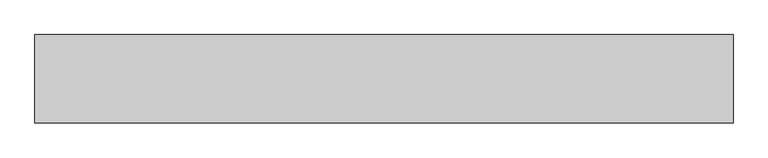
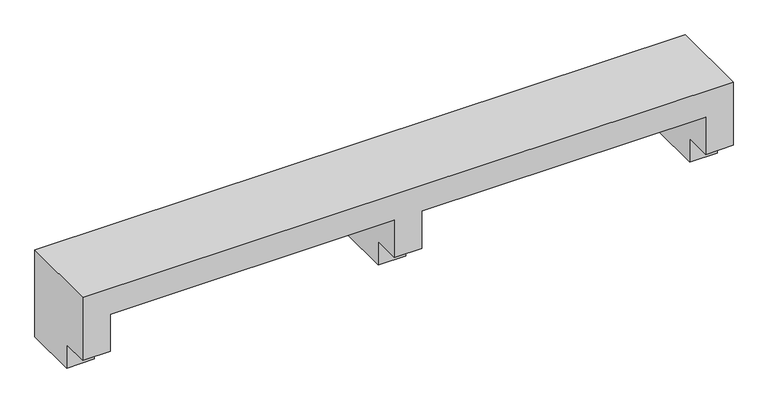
"""IFC4 building model written with IfcOpenShell, lengths in millimetres: proxy geometry, ARQ_BANCA_PADRES : ARQ_BANCA_PADRES."""

from ifc_helpers import new_model, si_unit, origin, place, context, project, spatial, faceted_brep, source, transform, mapped, element, save


def generic_models_e7e53a55(model_context):
    return source(origin(), model_context, "Body", "Brep", [
        faceted_brep([(1775.0, -450.0, 400.0), (-1775.0, -450.0, 400.0), (-1775.0, -450.0, 35.0), (-1625.0, -450.0, 35.0), (-1625.0, -450.0, 250.0), (-75.0, -450.0, 250.0), (-75.0, -450.0, 35.0), (75.0, -450.0, 35.0), (75.0, -450.0, 250.0), (1625.0, -450.0, 250.0), (1625.0, -450.0, 35.0), (1775.0, -450.0, 35.0), (1775.0, 0.0, 400.0), (1775.0, 0.0, -100.0), (1625.0, 0.0, -100.0), (1625.0, 0.0, 250.0), (75.0, 0.0, 250.0), (75.0, 0.0, -100.0), (-75.0, 0.0, -100.0), (-75.0, 0.0, 250.0), (-1625.0, 0.0, 250.0), (-1625.0, 0.0, -100.0), (-1775.0, 0.0, -100.0), (-1775.0, 0.0, 400.0), (-1775.0, -300.0, -100.0), (-1775.0, -300.0, 35.0), (-1625.0, -300.0, -100.0), (-1625.0, -300.0, 35.0), (-75.0, -300.0, -100.0), (-75.0, -300.0, 35.0), (75.0, -300.0, -100.0), (75.0, -300.0, 35.0), (1625.0, -300.0, -100.0), (1625.0, -300.0, 35.0), (1775.0, -300.0, -100.0), (1775.0, -300.0, 35.0)], [[[0, 1, 2, 3, 4, 5, 6, 7, 8, 9, 10, 11]], [[12, 13, 14, 15, 16, 17, 18, 19, 20, 21, 22, 23]], [[1, 0, 12, 23]], [[23, 22, 24, 25, 2, 1]], [[22, 21, 26, 24]], [[21, 20, 4, 3, 27, 26]], [[5, 4, 20, 19]], [[19, 18, 28, 29, 6, 5]], [[18, 17, 30, 28]], [[17, 16, 8, 7, 31, 30]], [[9, 8, 16, 15]], [[15, 14, 32, 33, 10, 9]], [[14, 13, 34, 32]], [[13, 12, 0, 11, 35, 34]], [[25, 27, 3, 2]], [[29, 31, 7, 6]], [[33, 35, 11, 10]], [[27, 25, 24, 26]], [[31, 29, 28, 30]], [[35, 33, 32, 34]]]),
    ])


if __name__ == "__main__":
    model = new_model("IFC4")
    model_context = context("Model", 3, world=origin())
    ifc_project = project(units=[si_unit("LENGTHUNIT", "METRE", prefix="MILLI")], contexts=[model_context])
    site = spatial("IfcSite", under=ifc_project)
    building = spatial("IfcBuilding", under=site)
    placement = place(None, origin())
    generic_models_shape = generic_models_e7e53a55(model_context)
    element("IfcBuildingElementProxy", 1, Name="ARQ_BANCA_PADRES : ARQ_BANCA_PADRES", ObjectType="ARQ_BANCA_PADRES : ARQ_BANCA_PADRES", at=placement, inside=building, context=model_context, shape_type="MappedRepresentation", body=[
        mapped(generic_models_shape, transform((0.0, 0.0, 0.0), x_axis=(1.0, 0.0, 0.0), y_axis=(0.0, 1.0, 0.0), z_axis=(0.0, 0.0, 1.0))),
    ])
    save(model, "model.ifc")
